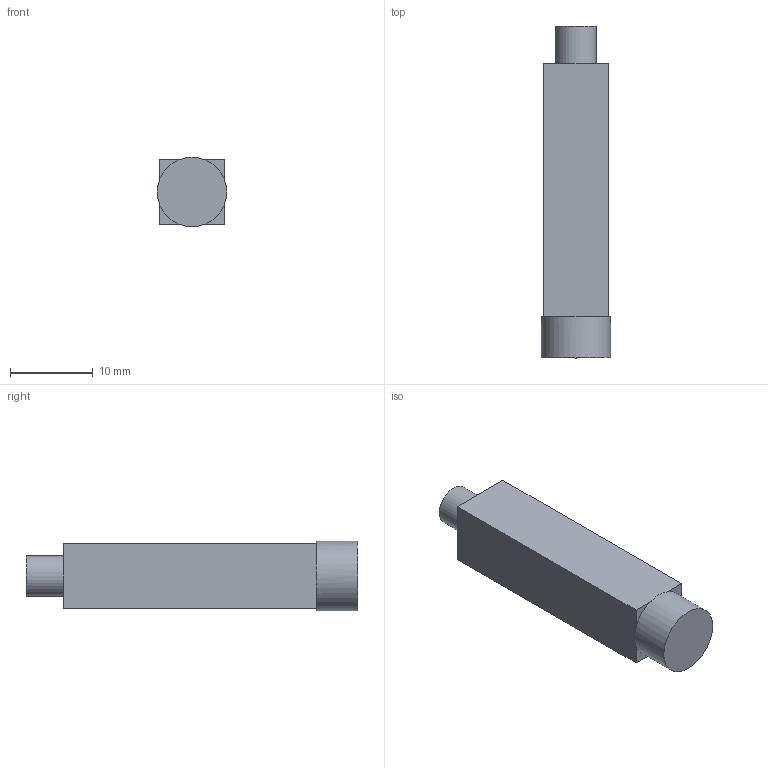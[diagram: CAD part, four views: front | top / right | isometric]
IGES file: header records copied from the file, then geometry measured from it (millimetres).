
Start section: Data from Parasolid IGES Translator 20.0.26, Copyright(c) 2006 Siemens P LM Software. All Rights Reserved.
Global section: file name: 9303956.igs; native system: By Siemens PLM Incorporated; preprocessor: XPlus GENERIC/IGES 20.0.26; author: Noname; organization: Noname; date: 20210825.111644; units: millimetre
Bounding box: 8.34 x 40 x 8.34 mm (x, y, z)
Surface area: 1277.6 mm2 (no closed solid volume)
Topology: 0 solids, 0 shells, 17 faces, 68 edges, 65 vertices
Faces by surface type: extrusion 15, revolution 2
